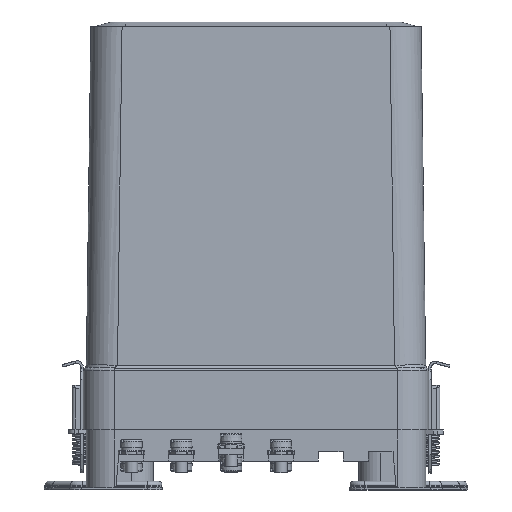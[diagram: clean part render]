
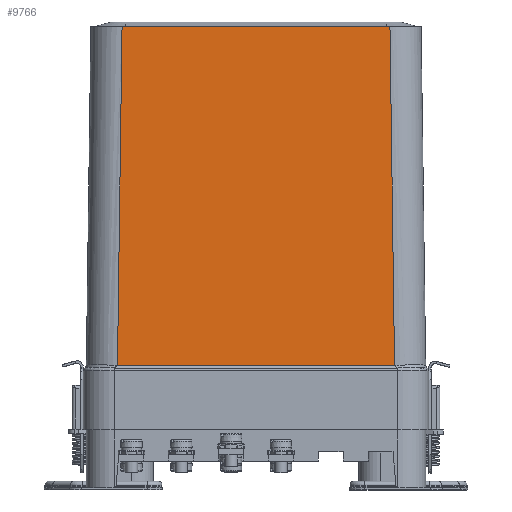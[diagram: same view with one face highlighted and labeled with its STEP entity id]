
A CAD part, left-side view. The second image highlights one B-rep face of the part: STEP entity #9766.
In plain terms, the highlighted planar face has unit normal (-1, 0, 0.013).
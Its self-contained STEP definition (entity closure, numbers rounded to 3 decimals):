
#9766=ADVANCED_FACE('',(#25688),#25690,.T.);
#25688=FACE_BOUND('',#25689,.T.);
#25689=EDGE_LOOP('',(#39838,#39839,#39840,#39841));
#25690=PLANE('',#25691);
#25691=AXIS2_PLACEMENT_3D('',#25692,#25693,#25694);
#25692=CARTESIAN_POINT('',(-30.5,-43.,149.5));
#25693=DIRECTION('',(-1.,0.,0.014));
#25694=DIRECTION('',(0.,1.,0.));
#39838=ORIENTED_EDGE('',*,*,#54585,.T.);
#39839=ORIENTED_EDGE('',*,*,#55408,.F.);
#39840=ORIENTED_EDGE('',*,*,#55409,.T.);
#39841=ORIENTED_EDGE('',*,*,#55410,.T.);
#54585=EDGE_CURVE('',#61879,#61877,#61880,.T.);
#55408=EDGE_CURVE('',#63250,#61877,#63252,.T.);
#55409=EDGE_CURVE('',#63250,#63253,#63254,.T.);
#55410=EDGE_CURVE('',#63253,#61879,#63255,.T.);
#61877=VERTEX_POINT('',#77800);
#61879=VERTEX_POINT('',#77806);
#61880=LINE('',#77807,#77808);
#63250=VERTEX_POINT('',#81727);
#63252=LINE('',#81791,#81792);
#63253=VERTEX_POINT('',#81794);
#63254=LINE('',#81795,#81796);
#63255=LINE('',#81798,#81799);
#77800=CARTESIAN_POINT('',(-31.99,-44.49,39.224));
#77806=CARTESIAN_POINT('',(-31.99,44.49,39.224));
#77807=CARTESIAN_POINT('',(-31.99,44.49,39.224));
#77808=VECTOR('',#77809,1.);
#77809=DIRECTION('',(0.,-1.,0.));
#81727=CARTESIAN_POINT('',(-30.52,-43.02,148.));
#81791=CARTESIAN_POINT('',(-30.52,-43.02,148.));
#81792=VECTOR('',#81793,1.);
#81793=DIRECTION('',(-0.014,-0.014,-1.));
#81794=CARTESIAN_POINT('',(-30.52,43.02,148.));
#81795=CARTESIAN_POINT('',(-30.52,-43.02,148.));
#81796=VECTOR('',#81797,1.);
#81797=DIRECTION('',(0.,1.,0.));
#81798=CARTESIAN_POINT('',(-30.52,43.02,148.));
#81799=VECTOR('',#81800,1.);
#81800=DIRECTION('',(-0.014,0.014,-1.));
